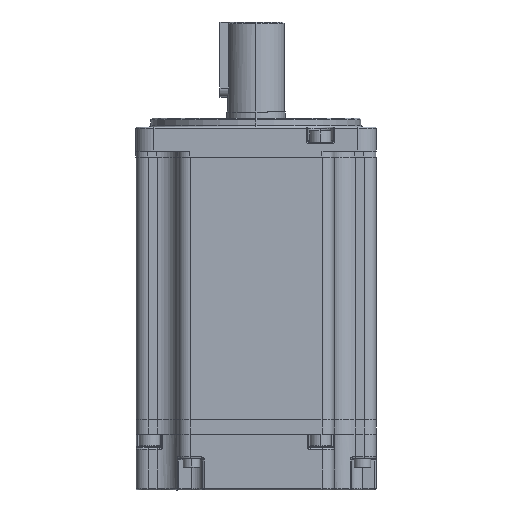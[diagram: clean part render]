
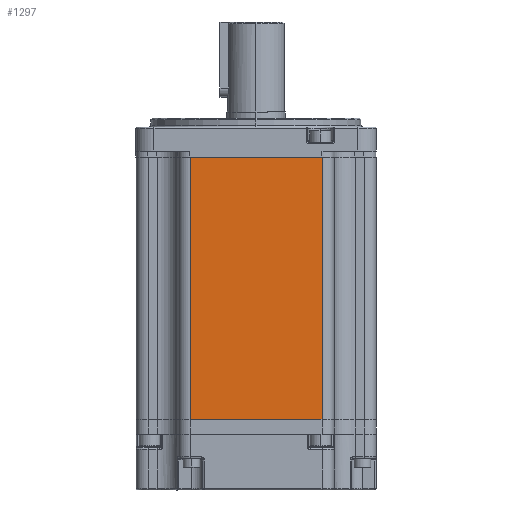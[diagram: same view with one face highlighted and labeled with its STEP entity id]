
A CAD part, front view. The second image highlights one B-rep face of the part: STEP entity #1297.
In plain terms, the highlighted planar face has unit normal (0, -1, 0) as drawn and (-1, 0, 0) by its records, which use the part's own axes.
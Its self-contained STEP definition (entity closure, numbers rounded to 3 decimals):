
#616 = EDGE_CURVE ( 'NONE', #43212, #91609, #77988, .T. ) ;
#694 = DIRECTION ( 'NONE',  ( 0., 0., -1. ) ) ;
#1297 = ADVANCED_FACE ( 'NONE', ( #38855 ), #85111, .F. ) ;
#7694 = LINE ( 'NONE', #93360, #134937 ) ;
#8579 = DIRECTION ( 'NONE',  ( 0., -1., 0. ) ) ;
#13894 = ORIENTED_EDGE ( 'NONE', *, *, #616, .T. ) ;
#16441 = CARTESIAN_POINT ( 'NONE',  ( -40., -22., 87.5 ) ) ;
#16606 = EDGE_CURVE ( 'NONE', #43212, #83813, #16738, .T. ) ;
#16738 = LINE ( 'NONE', #89250, #60720 ) ;
#20238 = ORIENTED_EDGE ( 'NONE', *, *, #16606, .F. ) ;
#22130 = EDGE_LOOP ( 'NONE', ( #30042, #54195, #20238, #13894 ) ) ;
#30042 = ORIENTED_EDGE ( 'NONE', *, *, #64870, .T. ) ;
#30635 = DIRECTION ( 'NONE',  ( 1., 0., 0. ) ) ;
#33951 = VECTOR ( 'NONE', #694, 1000. ) ;
#38855 = FACE_OUTER_BOUND ( 'NONE', #22130, .T. ) ;
#40122 = CARTESIAN_POINT ( 'NONE',  ( -40., -22., 87.5 ) ) ;
#40574 = CARTESIAN_POINT ( 'NONE',  ( -40., -22., 87.5 ) ) ;
#41046 = DIRECTION ( 'NONE',  ( 0., 0., -1. ) ) ;
#42798 = CARTESIAN_POINT ( 'NONE',  ( -40., 22., 87.5 ) ) ;
#43212 = VERTEX_POINT ( 'NONE', #67276 ) ;
#48251 = EDGE_CURVE ( 'NONE', #83813, #69990, #89803, .T. ) ;
#54195 = ORIENTED_EDGE ( 'NONE', *, *, #48251, .F. ) ;
#55774 = CARTESIAN_POINT ( 'NONE',  ( -40., 22., 0. ) ) ;
#60720 = VECTOR ( 'NONE', #87841, 1000. ) ;
#64870 = EDGE_CURVE ( 'NONE', #91609, #69990, #7694, .T. ) ;
#67276 = CARTESIAN_POINT ( 'NONE',  ( -40., 22., 87.5 ) ) ;
#69990 = VERTEX_POINT ( 'NONE', #109930 ) ;
#77988 = LINE ( 'NONE', #42798, #33951 ) ;
#83813 = VERTEX_POINT ( 'NONE', #16441 ) ;
#85111 = PLANE ( 'NONE',  #87324 ) ;
#87324 = AXIS2_PLACEMENT_3D ( 'NONE', #40122, #30635, #115955 ) ;
#87841 = DIRECTION ( 'NONE',  ( 0., -1., 0. ) ) ;
#89250 = CARTESIAN_POINT ( 'NONE',  ( -40., -22., 87.5 ) ) ;
#89803 = LINE ( 'NONE', #40574, #91562 ) ;
#91562 = VECTOR ( 'NONE', #41046, 1000. ) ;
#91609 = VERTEX_POINT ( 'NONE', #55774 ) ;
#93360 = CARTESIAN_POINT ( 'NONE',  ( -40., -22., 0. ) ) ;
#109930 = CARTESIAN_POINT ( 'NONE',  ( -40., -22., 0. ) ) ;
#115955 = DIRECTION ( 'NONE',  ( 0., 0., -1. ) ) ;
#134937 = VECTOR ( 'NONE', #8579, 1000. ) ;
